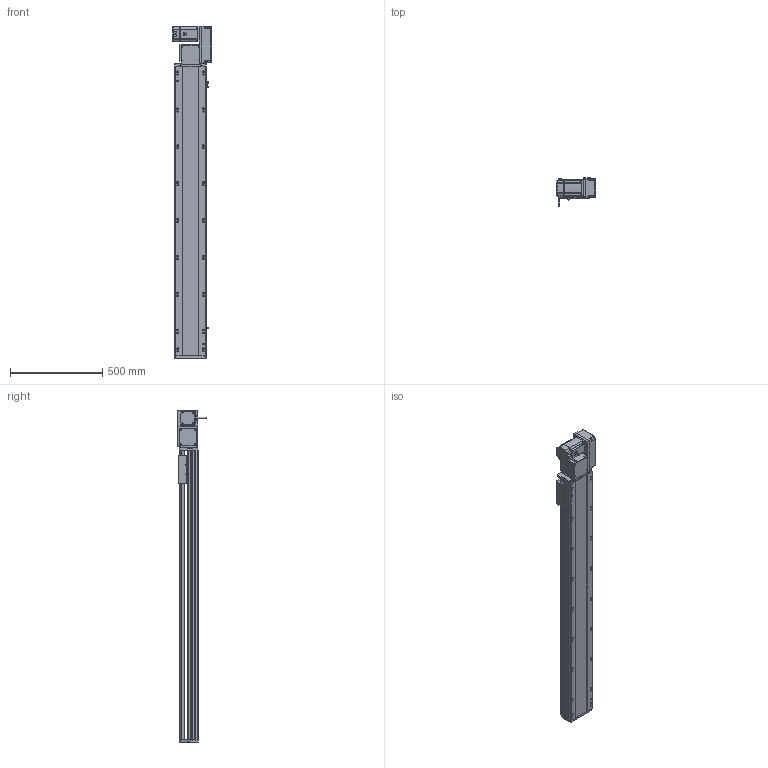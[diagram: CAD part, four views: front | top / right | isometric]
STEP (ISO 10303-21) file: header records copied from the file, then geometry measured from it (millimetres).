
FILE_DESCRIPTION (( 'STEP AP214' ), '1' );
FILE_NAME ('RTB17S-XX-1300-R-M75-C4.STEP', '2025-12-12T01:37:16', ( '' ), ( '' ), 'SwSTEP 2.0', 'SolidWorks 2018', '' );
FILE_SCHEMA (( 'AUTOMOTIVE_DESIGN' ));
Length unit declared in the file: millimetre
Products named in the file (15): RTB17S-R-々湍釱蚾饜-750W^RTB17S-XX-XX-R-M75-C4; EE672^RTB17S-XX-XX-R-M75-C4; RTB22S-GY-018P^RTB17S-R-々湍釱蚾饜-750W_RTB17S-XX-XX-R-M75-C4; RTB22S-GY-017P^RTB17S-R-々湍釱蚾饜-750W_RTB17S-XX-XX-R-M75-C4; RTB17S-L-014-T20-P75--々湍釱^RTB17S-R-々湍釱蚾饜-750W_RTB17S-XX-XX-R-M75-C4; RTH13-BL-012覜茼え俋离^RTB17S-賑釱_RTB17S-XX-XX-R-M75-C4; RTB17S-L-004-賑釱^RTB17S-賑釱_RTB17S-XX-XX-R-M75-C4; RTB17S-賑釱^RTB17S-XX-XX-R-M75-C4; RTB17S-L-007奻裔^RTB17S-XX-XX-R-M75-C4; RTB22S-GY-008-M75--萇儂啣^RTB17S-R-々湍釱蚾饜-750W_RTB17S-XX-XX-R-M75-C4; RTB17S-L-001-耜醱啣^RTB17S-XX-XX-R-M75-C4; RTB17S-XX-1300-R-M75-C4; RTB17-R-011菁釱^RTB17S-XX-XX-R-M75-C4; RTB22S-GY-005P^RTB17S-R-々湍釱蚾饜-750W_RTB17S-XX-XX-R-M75-C4; 750W萇儂^RTB17S-XX-XX-R-M75-C4
Assembly tree (17 placements, depth 3):
  RTB17S-XX-1300-R-M75-C4
    RTB17-R-011菁釱^RTB17S-XX-XX-R-M75-C4
    EE672^RTB17S-XX-XX-R-M75-C4  x3
    RTB17S-L-001-耜醱啣^RTB17S-XX-XX-R-M75-C4
    RTB17S-賑釱^RTB17S-XX-XX-R-M75-C4
      RTB17S-L-004-賑釱^RTB17S-賑釱_RTB17S-XX-XX-R-M75-C4
      RTH13-BL-012覜茼え俋离^RTB17S-賑釱_RTB17S-XX-XX-R-M75-C4
    RTB17S-L-007奻裔^RTB17S-XX-XX-R-M75-C4
    750W萇儂^RTB17S-XX-XX-R-M75-C4
    RTB17S-R-々湍釱蚾饜-750W^RTB17S-XX-XX-R-M75-C4
      RTB17S-L-014-T20-P75--々湍釱^RTB17S-R-々湍釱蚾饜-750W_RTB17S-XX-XX-R-M75-C4
      RTB22S-GY-005P^RTB17S-R-々湍釱蚾饜-750W_RTB17S-XX-XX-R-M75-C4
      RTB22S-GY-017P^RTB17S-R-々湍釱蚾饜-750W_RTB17S-XX-XX-R-M75-C4  x2
      RTB22S-GY-008-M75--萇儂啣^RTB17S-R-々湍釱蚾饜-750W_RTB17S-XX-XX-R-M75-C4
      RTB22S-GY-018P^RTB17S-R-々湍釱蚾饜-750W_RTB17S-XX-XX-R-M75-C4
Bounding box: 207.4 x 152.7 x 1799 mm (x, y, z)
Volume: 14073865.6 mm3; surface area: 2440317.1 mm2
Topology: 17 solids, 17 shells, 2121 faces, 5890 edges, 3806 vertices
Faces by surface type: plane 974, cylinder 731, bspline 294, cone 110, sphere 8, torus 4
Entity records: 59638 total; most frequent: CARTESIAN_POINT 17554, ORIENTED_EDGE 8624, DIRECTION 8042, EDGE_CURVE 4312, AXIS2_PLACEMENT_3D 2826, VERTEX_POINT 2810, VECTOR 2390, LINE 2390
